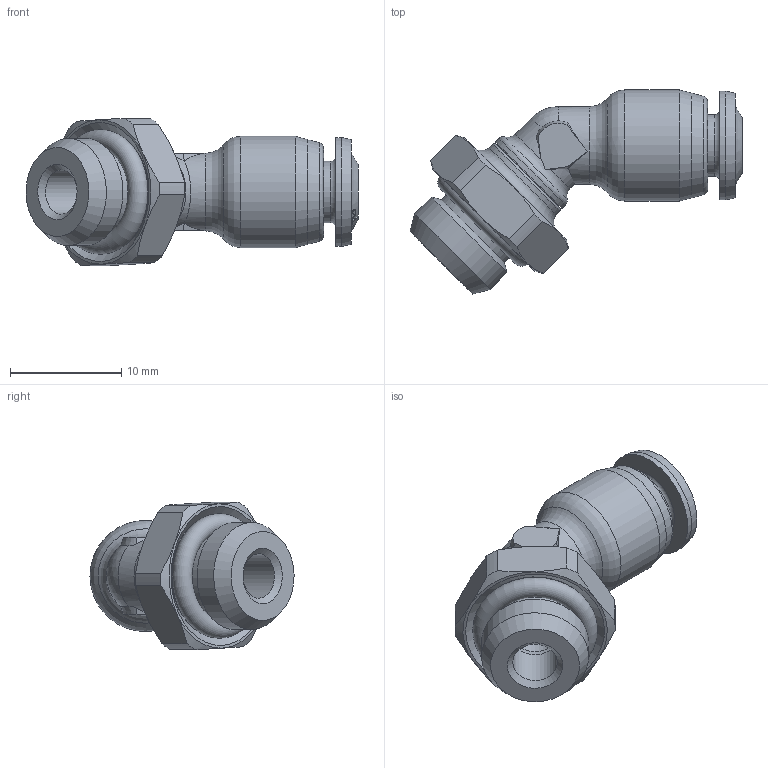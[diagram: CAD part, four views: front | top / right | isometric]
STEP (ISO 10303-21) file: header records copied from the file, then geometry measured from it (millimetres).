
FILE_DESCRIPTION (( 'STEP AP214' ), '1' );
FILE_NAME ('5517500004A.STEP', '2013-10-15T14:25:02', ( 'ST01' ), ( '' ), 'SwSTEP 2.0', 'SolidWorks 2012', '' );
FILE_SCHEMA (( 'AUTOMOTIVE_DESIGN' ));
Length unit declared in the file: millimetre
Products named in the file (1): 5517500004A
Bounding box: 29.86 x 18.36 x 13.26 mm (x, y, z)
Surface area: 1800.8 mm2 (no closed solid volume)
Topology: 0 solids, 8 shells, 187 faces, 499 edges, 323 vertices
Faces by surface type: bspline 94, cone 37, plane 26, cylinder 19, torus 10, sphere 1
Full cylindrical faces by diameter (mm): 4 x2, 4.2 x1, 5.5 x1, 6.8 x1, 7 x1, 8 x1, 8.5 x1, 9.63 x1, 9.8 x1, 10 x1
Entity records: 11568 total; most frequent: CARTESIAN_POINT 5952, ORIENTED_EDGE 870, EDGE_CURVE 464, DIRECTION 368, B_SPLINE_CURVE_WITH_KNOTS 350, VERTEX_POINT 321, EDGE_LOOP 239, FACE_OUTER_BOUND 206
